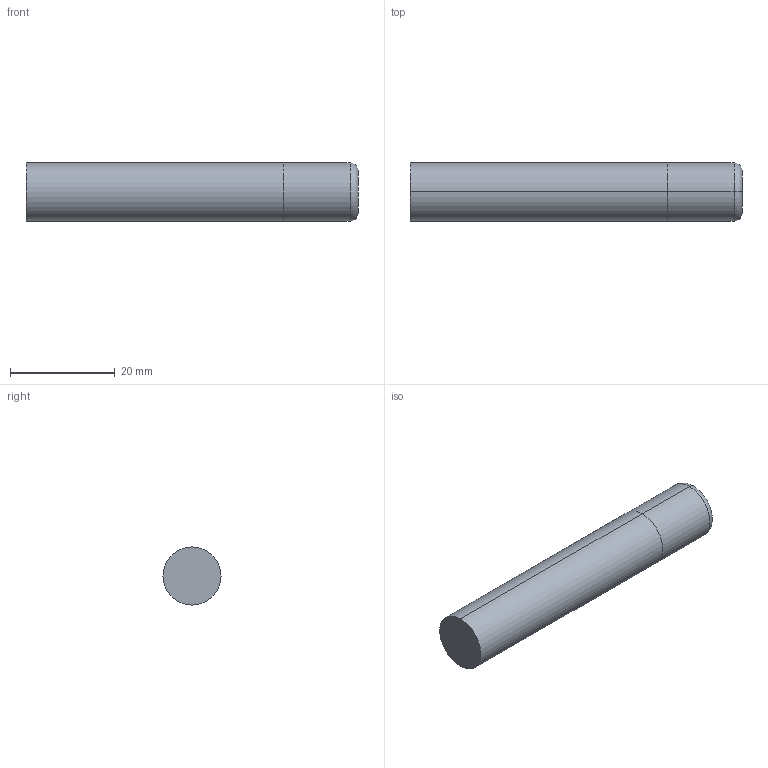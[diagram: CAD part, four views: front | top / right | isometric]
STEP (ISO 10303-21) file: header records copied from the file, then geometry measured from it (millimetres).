
FILE_DESCRIPTION (( 'STEP AP214' ), '1' );
FILE_NAME ('SSIST50437-060.STEP', '2025-05-28T20:10:35', ( '' ), ( '' ), 'SwSTEP 2.0', 'SolidWorks 2023', '' );
FILE_SCHEMA (( 'AUTOMOTIVE_DESIGN' ));
Length unit declared in the file: inch
Products named in the file (3): SSI5 Imperial SHANK ONLY_SSIST50437-060; SSIST50437-060; SSI5 Imperial LOC ONLY_SSIST50437-060
Assembly tree (2 placements, depth 2):
  SSIST50437-060
    SSI5 Imperial LOC ONLY_SSIST50437-060
    SSI5 Imperial SHANK ONLY_SSIST50437-060
Bounding box: 63.5 x 11.11 x 11.11 mm (x, y, z)
Volume: 6142.3 mm3; surface area: 2580.9 mm2
Topology: 2 solids, 2 shells, 10 faces, 16 edges, 10 vertices
Faces by surface type: cylinder 4, plane 4, torus 2
Entity records: 412 total; most frequent: DIRECTION 58, CARTESIAN_POINT 41, ORIENTED_EDGE 32, AXIS2_PLACEMENT_3D 27, EDGE_CURVE 16, CIRCLE 12, LENGTH_MEASURE_WITH_UNIT 11, DIMENSIONAL_EXPONENTS 11
